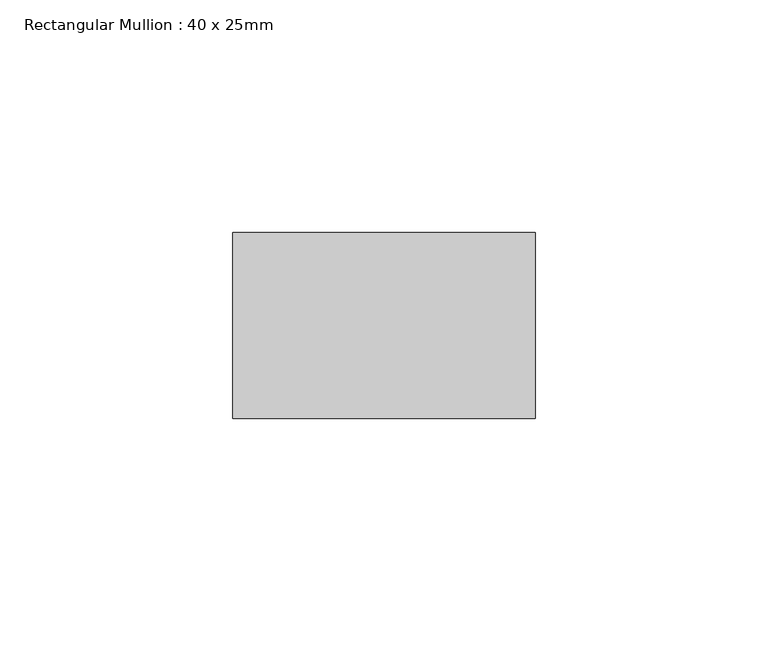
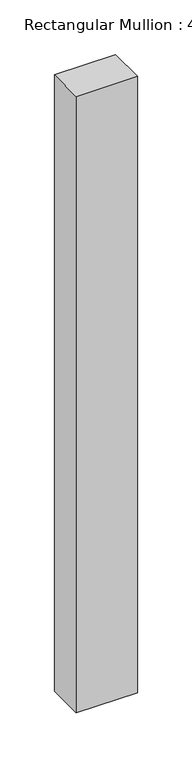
"""IFC4 building model written with IfcOpenShell, lengths in millimetres: member geometry, Rectangular Mullion : 40 x 25mm."""

from ifc_helpers import new_model, si_unit, frame, origin, place, context, project, spatial, polyline, outline, extrude, source, transform, mapped, element, save


def rectangular_mullion_40_x_25mm_7cf0260a(model_context):
    return source(origin(), model_context, "Body", "SweptSolid", [
        extrude(outline(polyline([(0.0, -20.0), (0.0, -60.0), (-65.0, -60.0), (-65.0, -20.0), (0.0, -20.0)])), frame((0.0, 0.0, -690.0), z_axis=(0.0, 0.0, 1.0), x_axis=(1.0, 0.0, 0.0)), (0.0, 0.0, 1.0), 690.0),
    ])


if __name__ == "__main__":
    model = new_model("IFC4")
    model_context = context("Model", 3, world=origin())
    ifc_project = project(units=[si_unit("LENGTHUNIT", "METRE", prefix="MILLI")], contexts=[model_context])
    site = spatial("IfcSite", under=ifc_project)
    building = spatial("IfcBuilding", under=site)
    placement = place(None, origin())
    rectangular_mullion_40_x_25mm_shape = rectangular_mullion_40_x_25mm_7cf0260a(model_context)
    element("IfcMember", 1, ObjectType="Rectangular Mullion : 40 x 25mm", at=placement, inside=building, context=model_context, shape_type="MappedRepresentation", body=[
        mapped(rectangular_mullion_40_x_25mm_shape, transform((0.0, 0.0, 0.0), x_axis=(1.0, 0.0, 0.0), y_axis=(0.0, 1.0, 0.0), z_axis=(0.0, 0.0, 1.0))),
    ])
    save(model, "model.ifc")
